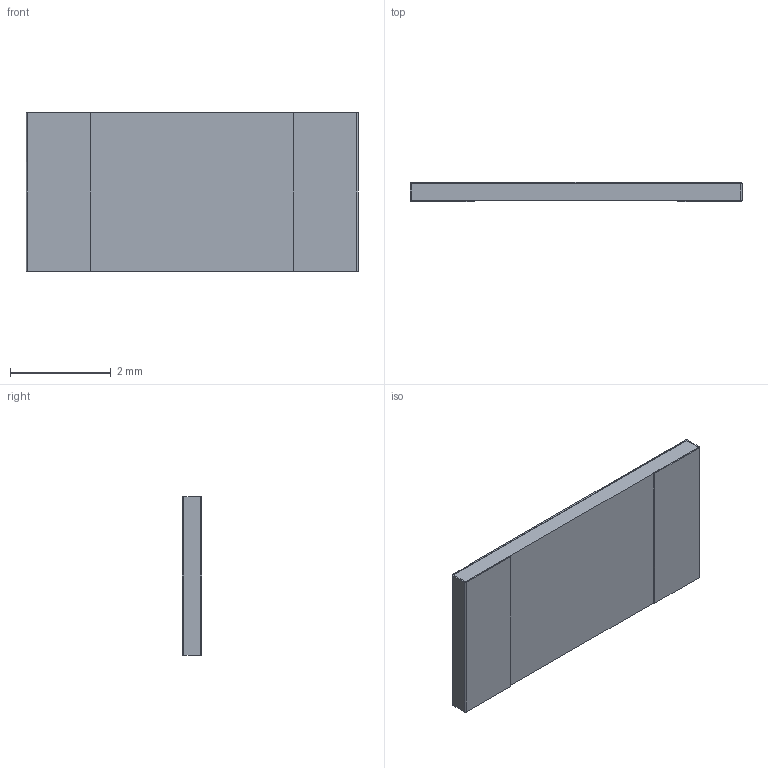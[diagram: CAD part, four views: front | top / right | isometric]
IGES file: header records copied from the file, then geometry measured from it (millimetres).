
Global section: file name: PCNM2512; native system: Autodesk Inventor LT ; preprocessor: unknown; author: Neil; date: 20191020.232722; units: inch
Bounding box: 6.58 x 0.39 x 3.15 mm (x, y, z)
Volume: 7.7 mm3; surface area: 139.3 mm2
Topology: 6 solids, 6 shells, 82 faces, 210 edges, 140 vertices
Faces by surface type: bspline 82
